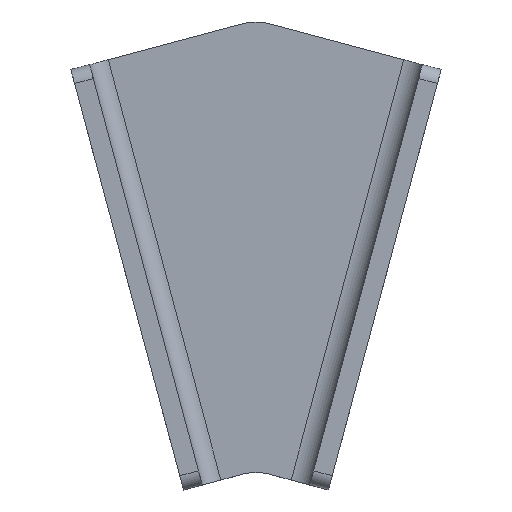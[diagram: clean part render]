
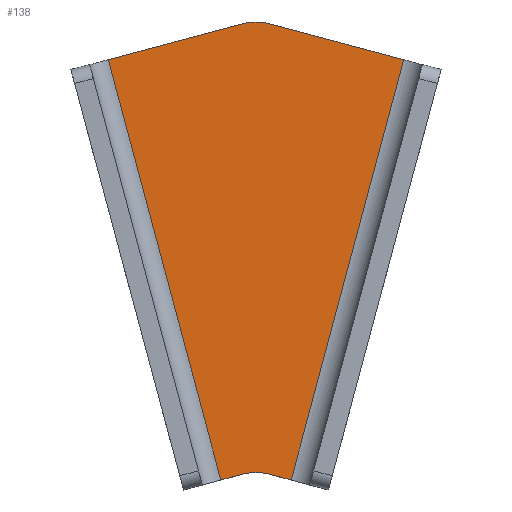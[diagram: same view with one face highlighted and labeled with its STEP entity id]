
A CAD part, top view. The second image highlights one B-rep face of the part: STEP entity #138.
In plain terms, the highlighted planar face has unit normal (0, 0, 1).
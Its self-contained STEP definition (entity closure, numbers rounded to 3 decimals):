
#7 = DIRECTION ( 'NONE',  ( -0.966, -0.259, 0. ) ) ;
#16 = VECTOR ( 'NONE', #1122, 1000. ) ;
#36 = EDGE_CURVE ( 'NONE', #499, #1342, #978, .T. ) ;
#42 = CIRCLE ( 'NONE', #312, 10. ) ;
#80 = VECTOR ( 'NONE', #131, 1000. ) ;
#103 = DIRECTION ( 'NONE',  ( 0.966, 0.259, 0. ) ) ;
#131 = DIRECTION ( 'NONE',  ( 0.259, 0.966, 0. ) ) ;
#138 = ADVANCED_FACE ( 'NONE', ( #1160 ), #488, .T. ) ;
#195 = CARTESIAN_POINT ( 'NONE',  ( 30., 0., 4. ) ) ;
#197 = LINE ( 'NONE', #766, #857 ) ;
#207 = CARTESIAN_POINT ( 'NONE',  ( 12.412, 96.501, 4. ) ) ;
#208 = LINE ( 'NONE', #1714, #80 ) ;
#211 = CARTESIAN_POINT ( 'NONE',  ( 7.727, 2.071, 4. ) ) ;
#217 = CARTESIAN_POINT ( 'NONE',  ( 12.412, 3.326, 4. ) ) ;
#224 = ORIENTED_EDGE ( 'NONE', *, *, #354, .T. ) ;
#245 = LINE ( 'NONE', #211, #1249 ) ;
#274 = EDGE_CURVE ( 'NONE', #1342, #1057, #1212, .T. ) ;
#288 = ORIENTED_EDGE ( 'NONE', *, *, #643, .T. ) ;
#302 = CARTESIAN_POINT ( 'NONE',  ( 17.588, 3.326, 4. ) ) ;
#312 = AXIS2_PLACEMENT_3D ( 'NONE', #1464, #671, #1597 ) ;
#351 = CARTESIAN_POINT ( 'NONE',  ( 0., 0., 4. ) ) ;
#354 = EDGE_CURVE ( 'NONE', #1379, #499, #208, .T. ) ;
#390 = CARTESIAN_POINT ( 'NONE',  ( 15., 86.841, 4. ) ) ;
#411 = CARTESIAN_POINT ( 'NONE',  ( -23.294, 86.933, 4. ) ) ;
#413 = EDGE_CURVE ( 'NONE', #1097, #1460, #42, .T. ) ;
#419 = EDGE_CURVE ( 'NONE', #1057, #550, #1362, .T. ) ;
#459 = ORIENTED_EDGE ( 'NONE', *, *, #413, .T. ) ;
#488 = PLANE ( 'NONE',  #967 ) ;
#499 = VERTEX_POINT ( 'NONE', #683 ) ;
#506 = ORIENTED_EDGE ( 'NONE', *, *, #1717, .T. ) ;
#524 = DIRECTION ( 'NONE',  ( 1., 0., 0. ) ) ;
#550 = VERTEX_POINT ( 'NONE', #573 ) ;
#561 = ORIENTED_EDGE ( 'NONE', *, *, #274, .T. ) ;
#573 = CARTESIAN_POINT ( 'NONE',  ( -15.566, 89.004, 4. ) ) ;
#619 = DIRECTION ( 'NONE',  ( 1., 0., 0. ) ) ;
#643 = EDGE_CURVE ( 'NONE', #1460, #1379, #729, .T. ) ;
#671 = DIRECTION ( 'NONE',  ( 0., 0., -1. ) ) ;
#683 = CARTESIAN_POINT ( 'NONE',  ( 45.566, 89.004, 4. ) ) ;
#686 = DIRECTION ( 'NONE',  ( -0.966, 0.259, 0. ) ) ;
#729 = LINE ( 'NONE', #195, #16 ) ;
#741 = ORIENTED_EDGE ( 'NONE', *, *, #1067, .T. ) ;
#766 = CARTESIAN_POINT ( 'NONE',  ( 0., 0., 4. ) ) ;
#803 = ORIENTED_EDGE ( 'NONE', *, *, #36, .T. ) ;
#811 = CARTESIAN_POINT ( 'NONE',  ( 17.588, 96.501, 4. ) ) ;
#857 = VECTOR ( 'NONE', #103, 1000. ) ;
#864 = ORIENTED_EDGE ( 'NONE', *, *, #419, .T. ) ;
#947 = CARTESIAN_POINT ( 'NONE',  ( 22.273, 2.071, 4. ) ) ;
#967 = AXIS2_PLACEMENT_3D ( 'NONE', #351, #1396, #619 ) ;
#978 = LINE ( 'NONE', #1073, #1645 ) ;
#1003 = DIRECTION ( 'NONE',  ( 0.259, -0.966, 0. ) ) ;
#1017 = VECTOR ( 'NONE', #7, 1000. ) ;
#1057 = VERTEX_POINT ( 'NONE', #207 ) ;
#1067 = EDGE_CURVE ( 'NONE', #550, #1072, #245, .T. ) ;
#1072 = VERTEX_POINT ( 'NONE', #1257 ) ;
#1073 = CARTESIAN_POINT ( 'NONE',  ( 53.294, 86.933, 4. ) ) ;
#1097 = VERTEX_POINT ( 'NONE', #217 ) ;
#1122 = DIRECTION ( 'NONE',  ( 0.966, -0.259, 0. ) ) ;
#1160 = FACE_OUTER_BOUND ( 'NONE', #1662, .T. ) ;
#1212 = CIRCLE ( 'NONE', #1675, 10. ) ;
#1249 = VECTOR ( 'NONE', #1003, 1000. ) ;
#1257 = CARTESIAN_POINT ( 'NONE',  ( 7.727, 2.071, 4. ) ) ;
#1303 = DIRECTION ( 'NONE',  ( 0., 0., 1. ) ) ;
#1342 = VERTEX_POINT ( 'NONE', #811 ) ;
#1362 = LINE ( 'NONE', #411, #1017 ) ;
#1379 = VERTEX_POINT ( 'NONE', #947 ) ;
#1396 = DIRECTION ( 'NONE',  ( 0., 0., 1. ) ) ;
#1460 = VERTEX_POINT ( 'NONE', #302 ) ;
#1464 = CARTESIAN_POINT ( 'NONE',  ( 15., -6.334, 4. ) ) ;
#1597 = DIRECTION ( 'NONE',  ( 1., 0., 0. ) ) ;
#1645 = VECTOR ( 'NONE', #686, 1000. ) ;
#1662 = EDGE_LOOP ( 'NONE', ( #288, #224, #803, #561, #864, #741, #506, #459 ) ) ;
#1675 = AXIS2_PLACEMENT_3D ( 'NONE', #390, #1303, #524 ) ;
#1714 = CARTESIAN_POINT ( 'NONE',  ( 20.263, -5.429, 4. ) ) ;
#1717 = EDGE_CURVE ( 'NONE', #1072, #1097, #197, .T. ) ;
